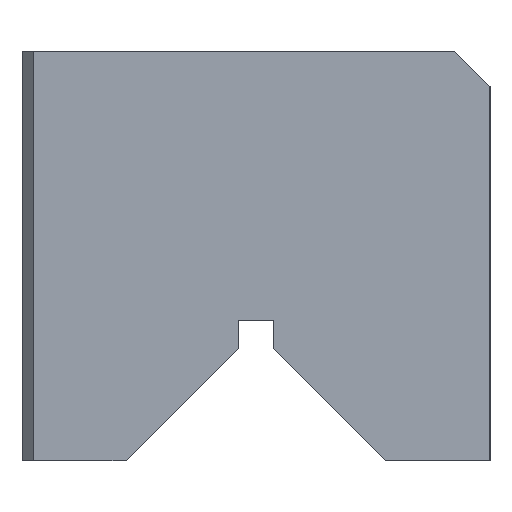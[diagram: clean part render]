
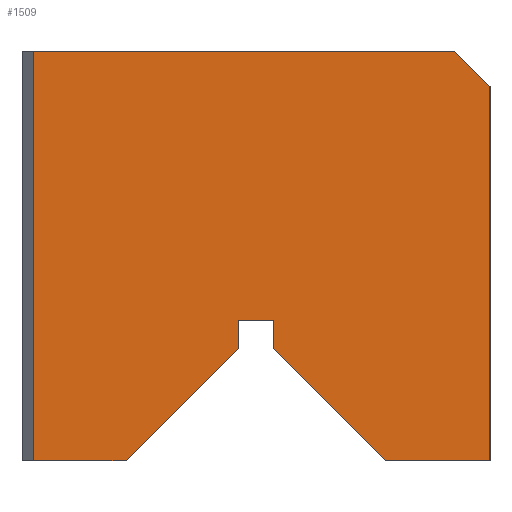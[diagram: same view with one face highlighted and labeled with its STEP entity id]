
A CAD part, left-side view. The second image highlights one B-rep face of the part: STEP entity #1509.
In plain terms, the highlighted planar face has unit normal (-1, 0, 0).
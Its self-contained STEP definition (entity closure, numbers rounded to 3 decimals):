
#510=DIRECTION('',(0.,1.,0.));
#511=VECTOR('',#510,36.);
#512=CARTESIAN_POINT('',(-62.5,3.,0.));
#513=LINE('',#512,#511);
#514=DIRECTION('',(0.,0.707,0.707));
#515=VECTOR('',#514,4.243);
#516=CARTESIAN_POINT('',(-62.5,0.,-3.));
#517=LINE('',#516,#515);
#518=DIRECTION('',(0.,0.,1.));
#519=VECTOR('',#518,32.);
#520=CARTESIAN_POINT('',(-62.5,0.,-35.));
#521=LINE('',#520,#519);
#522=DIRECTION('',(0.,-1.,0.));
#523=VECTOR('',#522,8.893);
#524=CARTESIAN_POINT('',(-62.5,8.893,-35.));
#525=LINE('',#524,#523);
#526=DIRECTION('',(0.,-0.707,-0.707));
#527=VECTOR('',#526,13.586);
#528=CARTESIAN_POINT('',(-62.5,18.5,-25.393));
#529=LINE('',#528,#527);
#530=DIRECTION('',(0.,0.,-1.));
#531=VECTOR('',#530,2.393);
#532=CARTESIAN_POINT('',(-62.5,18.5,-23.));
#533=LINE('',#532,#531);
#534=DIRECTION('',(0.,-1.,0.));
#535=VECTOR('',#534,3.);
#536=CARTESIAN_POINT('',(-62.5,21.5,-23.));
#537=LINE('',#536,#535);
#538=DIRECTION('',(0.,0.,1.));
#539=VECTOR('',#538,2.393);
#540=CARTESIAN_POINT('',(-62.5,21.5,-25.393));
#541=LINE('',#540,#539);
#542=DIRECTION('',(0.,-0.707,0.707));
#543=VECTOR('',#542,13.586);
#544=CARTESIAN_POINT('',(-62.5,31.107,-35.));
#545=LINE('',#544,#543);
#546=DIRECTION('',(0.,1.,0.));
#547=VECTOR('',#546,7.893);
#548=CARTESIAN_POINT('',(-62.5,31.107,-35.));
#549=LINE('',#548,#547);
#550=DIRECTION('',(0.,0.,-1.));
#551=VECTOR('',#550,35.);
#552=CARTESIAN_POINT('',(-62.5,39.,0.));
#553=LINE('',#552,#551);
#692=CARTESIAN_POINT('',(-62.5,21.5,-25.393));
#693=CARTESIAN_POINT('',(-62.5,21.5,-23.));
#694=VERTEX_POINT('',#692);
#695=VERTEX_POINT('',#693);
#712=CARTESIAN_POINT('',(-62.5,8.893,-35.));
#713=CARTESIAN_POINT('',(-62.5,0.,-35.));
#714=VERTEX_POINT('',#712);
#715=VERTEX_POINT('',#713);
#716=CARTESIAN_POINT('',(-62.5,31.107,-35.));
#718=VERTEX_POINT('',#716);
#754=CARTESIAN_POINT('',(-62.5,0.,-3.));
#755=VERTEX_POINT('',#754);
#760=CARTESIAN_POINT('',(-62.5,18.5,-23.));
#761=VERTEX_POINT('',#760);
#762=CARTESIAN_POINT('',(-62.5,18.5,-25.393));
#763=VERTEX_POINT('',#762);
#764=CARTESIAN_POINT('',(-62.5,3.,0.));
#765=CARTESIAN_POINT('',(-62.5,39.,0.));
#766=VERTEX_POINT('',#764);
#767=VERTEX_POINT('',#765);
#796=CARTESIAN_POINT('',(-62.5,39.,-35.));
#798=VERTEX_POINT('',#796);
#1485=CARTESIAN_POINT('',(-62.5,35.354,-32.354));
#1486=DIRECTION('',(-1.,0.,0.));
#1487=DIRECTION('',(0.,0.,1.));
#1488=AXIS2_PLACEMENT_3D('',#1485,#1486,#1487);
#1489=PLANE('',#1488);
#1491=ORIENTED_EDGE('',*,*,#1490,.F.);
#1492=ORIENTED_EDGE('',*,*,#972,.F.);
#1494=ORIENTED_EDGE('',*,*,#1493,.F.);
#1495=ORIENTED_EDGE('',*,*,#1349,.F.);
#1497=ORIENTED_EDGE('',*,*,#1496,.F.);
#1499=ORIENTED_EDGE('',*,*,#1498,.F.);
#1501=ORIENTED_EDGE('',*,*,#1500,.F.);
#1503=ORIENTED_EDGE('',*,*,#1502,.F.);
#1504=ORIENTED_EDGE('',*,*,#1465,.F.);
#1505=ORIENTED_EDGE('',*,*,#1420,.F.);
#1506=ORIENTED_EDGE('',*,*,#1074,.T.);
#1507=EDGE_LOOP('',(#1491,#1492,#1494,#1495,#1497,#1499,#1501,#1503,#1504,#1505,
#1506));
#1508=FACE_OUTER_BOUND('',#1507,.F.);
#1509=ADVANCED_FACE('',(#1508),#1489,.T.);
#972=EDGE_CURVE('',#766,#767,#513,.T.);
#1074=EDGE_CURVE('',#718,#798,#549,.T.);
#1349=EDGE_CURVE('',#715,#755,#521,.T.);
#1420=EDGE_CURVE('',#718,#694,#545,.T.);
#1465=EDGE_CURVE('',#694,#695,#541,.T.);
#1490=EDGE_CURVE('',#767,#798,#553,.T.);
#1493=EDGE_CURVE('',#755,#766,#517,.T.);
#1496=EDGE_CURVE('',#714,#715,#525,.T.);
#1498=EDGE_CURVE('',#763,#714,#529,.T.);
#1500=EDGE_CURVE('',#761,#763,#533,.T.);
#1502=EDGE_CURVE('',#695,#761,#537,.T.);
